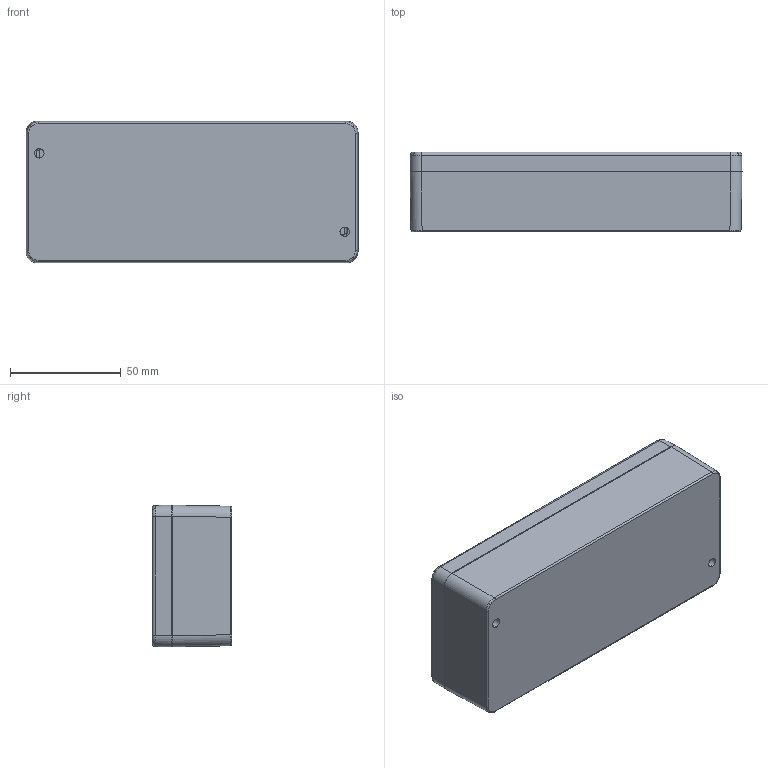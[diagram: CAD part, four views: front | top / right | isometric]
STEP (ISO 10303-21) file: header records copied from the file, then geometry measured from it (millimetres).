
FILE_DESCRIPTION (( 'STEP AP214' ), '1' );
FILE_NAME ('Zag 4 Assembly.STEP', '2016-05-03T07:42:43', ( '' ), ( '' ), 'SwSTEP 2.0', 'SolidWorks 2015', '' );
FILE_SCHEMA (( 'AUTOMOTIVE_DESIGN' ));
Length unit declared in the file: millimetre
Products named in the file (4): pan cross head_am_B18.6.7M - M4 x 0.7 x 16 Type I Cross Recessed PHMS --16C; Zag 4 Lid; Zag 4 Body; Zag 4 Assembly
Assembly tree (6 placements, depth 2):
  Zag 4 Assembly
    Zag 4 Body
    Zag 4 Lid
    pan cross head_am_B18.6.7M - M4 x 0.7 x 16 Type I Cross Recessed PHMS --16C  x4
Bounding box: 150 x 36 x 64 mm (x, y, z)
Volume: 131485.5 mm3; surface area: 68961.2 mm2
Topology: 6 solids, 6 shells, 386 faces, 942 edges, 573 vertices
Faces by surface type: plane 129, cylinder 98, cone 84, torus 41, bspline 22, sphere 12
Entity records: 10050 total; most frequent: CARTESIAN_POINT 2155, DIRECTION 1710, ORIENTED_EDGE 1552, EDGE_CURVE 776, AXIS2_PLACEMENT_3D 682, VERTEX_POINT 483, CIRCLE 378, EDGE_LOOP 347
